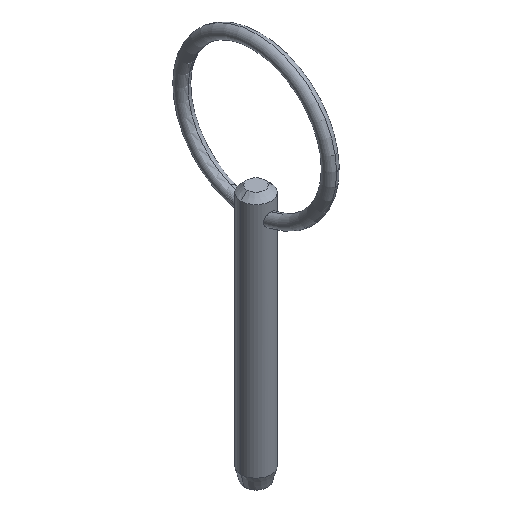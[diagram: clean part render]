
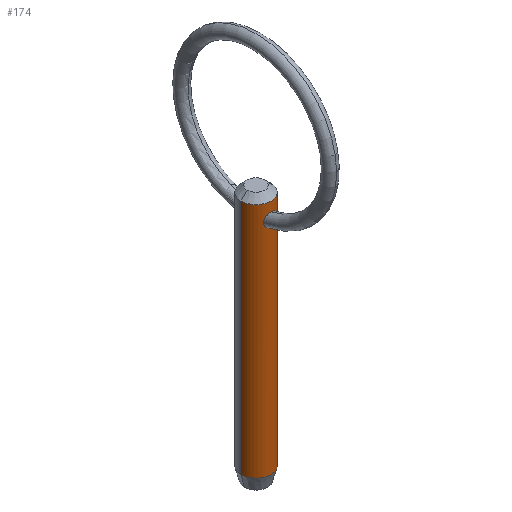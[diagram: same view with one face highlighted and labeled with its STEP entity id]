
A CAD part, isometric view. The second image highlights one B-rep face of the part: STEP entity #174.
In plain terms, the highlighted cylindrical face has radius 2.38 mm (diameter 4.76 mm), a partial arc.
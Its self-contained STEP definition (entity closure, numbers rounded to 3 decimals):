
#5 = CARTESIAN_POINT ( 'NONE',  ( 0., 0., -3.08 ) ) ;
#7 = AXIS2_PLACEMENT_3D ( 'NONE', #264, #193, #306 ) ;
#23 = VERTEX_POINT ( 'NONE', #364 ) ;
#30 = CARTESIAN_POINT ( 'NONE',  ( 2.38, 0., 30.5 ) ) ;
#34 = CARTESIAN_POINT ( 'NONE',  ( 2.38, 0., -3.08 ) ) ;
#37 = CARTESIAN_POINT ( 'NONE',  ( 0.793, -2.246, 32.352 ) ) ;
#41 = ORIENTED_EDGE ( 'NONE', *, *, #89, .F. ) ;
#43 = DIRECTION ( 'NONE',  ( 0., 0., 1. ) ) ;
#49 = CYLINDRICAL_SURFACE ( 'NONE', #7, 2.38 ) ;
#51 = VERTEX_POINT ( 'NONE', #106 ) ;
#52 = CARTESIAN_POINT ( 'NONE',  ( 1.003, -2.158, 31.599 ) ) ;
#61 = ORIENTED_EDGE ( 'NONE', *, *, #195, .T. ) ;
#72 = VERTEX_POINT ( 'NONE', #475 ) ;
#73 = DIRECTION ( 'NONE',  ( 0., 0., -1. ) ) ;
#79 = AXIS2_PLACEMENT_3D ( 'NONE', #5, #43, #378 ) ;
#81 = CARTESIAN_POINT ( 'NONE',  ( 0.996, -2.162, 31.864 ) ) ;
#84 = CARTESIAN_POINT ( 'NONE',  ( -0.134, -2.38, 32.768 ) ) ;
#86 = CARTESIAN_POINT ( 'NONE',  ( -0.626, -2.298, 30.922 ) ) ;
#88 = CARTESIAN_POINT ( 'NONE',  ( 0., -2.38, 30.725 ) ) ;
#89 = EDGE_CURVE ( 'NONE', #357, #274, #363, .T. ) ;
#94 = B_SPLINE_CURVE_WITH_KNOTS ( 'NONE', 3,
 ( #88, #225, #376, #119, #86, #455, #373, #189, #258, #457, #228, #346, #156, #155, #84, #297 ),
 .UNSPECIFIED., .F., .F.,
 ( 4, 2, 2, 2, 2, 2, 2, 4 ),
 ( 0.006, 0.006, 0.007, 0.007, 0.007, 0.008, 0.009, 0.009 ),
 .UNSPECIFIED. ) ;
#97 = CARTESIAN_POINT ( 'NONE',  ( 0.625, -2.299, 30.921 ) ) ;
#98 = AXIS2_PLACEMENT_3D ( 'NONE', #380, #307, #344 ) ;
#106 = CARTESIAN_POINT ( 'NONE',  ( 0., -2.38, 32.768 ) ) ;
#114 = CARTESIAN_POINT ( 'NONE',  ( 0.268, -2.368, 32.737 ) ) ;
#119 = CARTESIAN_POINT ( 'NONE',  ( -0.514, -2.327, 30.849 ) ) ;
#124 = CIRCLE ( 'NONE', #79, 2.38 ) ;
#130 = B_SPLINE_CURVE_WITH_KNOTS ( 'NONE', 3,
 ( #382, #184, #114, #161, #424, #37, #450, #257, #81, #52, #239, #314, #197, #97, #463, #238, #201, #315 ),
 .UNSPECIFIED., .F., .F.,
 ( 4, 2, 2, 2, 2, 2, 2, 2, 4 ),
 ( 0.003, 0.003, 0.003, 0.004, 0.004, 0.005, 0.005, 0.005, 0.006 ),
 .UNSPECIFIED. ) ;
#135 = LINE ( 'NONE', #454, #217 ) ;
#147 = FACE_BOUND ( 'NONE', #367, .T. ) ;
#155 = CARTESIAN_POINT ( 'NONE',  ( -0.267, -2.368, 32.737 ) ) ;
#156 = CARTESIAN_POINT ( 'NONE',  ( -0.505, -2.329, 32.626 ) ) ;
#161 = CARTESIAN_POINT ( 'NONE',  ( 0.508, -2.328, 32.624 ) ) ;
#168 = VECTOR ( 'NONE', #73, 1000. ) ;
#174 = ADVANCED_FACE ( 'NONE', ( #347, #147 ), #49, .T. ) ;
#184 = CARTESIAN_POINT ( 'NONE',  ( 0.134, -2.38, 32.768 ) ) ;
#189 = CARTESIAN_POINT ( 'NONE',  ( -0.982, -2.169, 31.465 ) ) ;
#193 = DIRECTION ( 'NONE',  ( 0., 0., -1. ) ) ;
#195 = EDGE_CURVE ( 'NONE', #72, #23, #135, .T. ) ;
#197 = CARTESIAN_POINT ( 'NONE',  ( 0.811, -2.24, 31.106 ) ) ;
#201 = CARTESIAN_POINT ( 'NONE',  ( 0.133, -2.38, 30.725 ) ) ;
#214 = EDGE_LOOP ( 'NONE', ( #41, #219, #61, #452 ) ) ;
#216 = EDGE_CURVE ( 'NONE', #23, #274, #124, .T. ) ;
#217 = VECTOR ( 'NONE', #383, 1000. ) ;
#218 = CIRCLE ( 'NONE', #98, 2.38 ) ;
#219 = ORIENTED_EDGE ( 'NONE', *, *, #324, .T. ) ;
#224 = ORIENTED_EDGE ( 'NONE', *, *, #400, .T. ) ;
#225 = CARTESIAN_POINT ( 'NONE',  ( -0.133, -2.38, 30.725 ) ) ;
#226 = CARTESIAN_POINT ( 'NONE',  ( 2.38, 0., 34.24 ) ) ;
#228 = CARTESIAN_POINT ( 'NONE',  ( -0.88, -2.219, 32.26 ) ) ;
#238 = CARTESIAN_POINT ( 'NONE',  ( 0.268, -2.368, 30.751 ) ) ;
#239 = CARTESIAN_POINT ( 'NONE',  ( 0.981, -2.169, 31.464 ) ) ;
#257 = CARTESIAN_POINT ( 'NONE',  ( 0.966, -2.176, 31.997 ) ) ;
#258 = CARTESIAN_POINT ( 'NONE',  ( -1.004, -2.158, 31.599 ) ) ;
#264 = CARTESIAN_POINT ( 'NONE',  ( 0., 0., 30.5 ) ) ;
#274 = VERTEX_POINT ( 'NONE', #34 ) ;
#290 = ORIENTED_EDGE ( 'NONE', *, *, #374, .T. ) ;
#297 = CARTESIAN_POINT ( 'NONE',  ( 0., -2.38, 32.768 ) ) ;
#306 = DIRECTION ( 'NONE',  ( -1., 0., 0. ) ) ;
#307 = DIRECTION ( 'NONE',  ( 0., 0., -1. ) ) ;
#314 = CARTESIAN_POINT ( 'NONE',  ( 0.885, -2.21, 31.217 ) ) ;
#315 = CARTESIAN_POINT ( 'NONE',  ( 0., -2.38, 30.725 ) ) ;
#324 = EDGE_CURVE ( 'NONE', #357, #72, #218, .T. ) ;
#344 = DIRECTION ( 'NONE',  ( 1., 0., 0. ) ) ;
#346 = CARTESIAN_POINT ( 'NONE',  ( -0.613, -2.302, 32.546 ) ) ;
#347 = FACE_OUTER_BOUND ( 'NONE', #214, .T. ) ;
#357 = VERTEX_POINT ( 'NONE', #226 ) ;
#363 = LINE ( 'NONE', #30, #168 ) ;
#364 = CARTESIAN_POINT ( 'NONE',  ( -2.38, 0., -3.08 ) ) ;
#367 = EDGE_LOOP ( 'NONE', ( #224, #290 ) ) ;
#373 = CARTESIAN_POINT ( 'NONE',  ( -0.885, -2.21, 31.217 ) ) ;
#374 = EDGE_CURVE ( 'NONE', #398, #51, #94, .T. ) ;
#376 = CARTESIAN_POINT ( 'NONE',  ( -0.268, -2.368, 30.751 ) ) ;
#378 = DIRECTION ( 'NONE',  ( -1., 0., 0. ) ) ;
#380 = CARTESIAN_POINT ( 'NONE',  ( 0., 0., 34.24 ) ) ;
#382 = CARTESIAN_POINT ( 'NONE',  ( 0., -2.38, 32.768 ) ) ;
#383 = DIRECTION ( 'NONE',  ( 0., 0., -1. ) ) ;
#398 = VERTEX_POINT ( 'NONE', #419 ) ;
#400 = EDGE_CURVE ( 'NONE', #51, #398, #130, .T. ) ;
#419 = CARTESIAN_POINT ( 'NONE',  ( 0., -2.38, 30.725 ) ) ;
#424 = CARTESIAN_POINT ( 'NONE',  ( 0.615, -2.301, 32.544 ) ) ;
#450 = CARTESIAN_POINT ( 'NONE',  ( 0.865, -2.218, 32.24 ) ) ;
#452 = ORIENTED_EDGE ( 'NONE', *, *, #216, .T. ) ;
#454 = CARTESIAN_POINT ( 'NONE',  ( -2.38, 0., 30.5 ) ) ;
#455 = CARTESIAN_POINT ( 'NONE',  ( -0.811, -2.24, 31.106 ) ) ;
#457 = CARTESIAN_POINT ( 'NONE',  ( -0.991, -2.164, 32.001 ) ) ;
#463 = CARTESIAN_POINT ( 'NONE',  ( 0.513, -2.327, 30.848 ) ) ;
#475 = CARTESIAN_POINT ( 'NONE',  ( -2.38, 0., 34.24 ) ) ;
